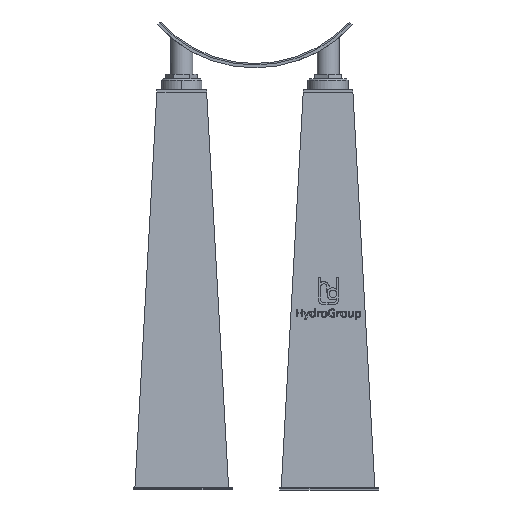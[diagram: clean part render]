
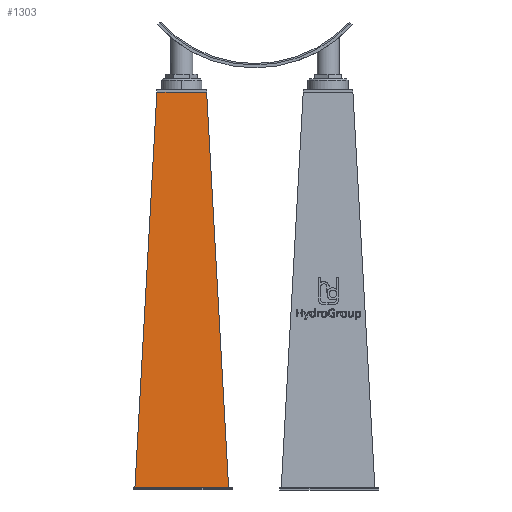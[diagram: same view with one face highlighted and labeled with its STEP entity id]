
A CAD part, front view. The second image highlights one B-rep face of the part: STEP entity #1303.
In plain terms, the highlighted planar face has unit normal (0, -0.999, 0.055).
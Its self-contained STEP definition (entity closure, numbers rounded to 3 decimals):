
#1303=ADVANCED_FACE('',(#2605),#2606,.F.);
#2605=FACE_OUTER_BOUND('',#3983,.T.);
#2606=PLANE('',#3984);
#3983=EDGE_LOOP('',(#7967,#7968,#7969,#7970));
#3984=AXIS2_PLACEMENT_3D('',#7971,#7972,#7973);
#7967=ORIENTED_EDGE('',*,*,#9494,.F.);
#7968=ORIENTED_EDGE('',*,*,#9528,.F.);
#7969=ORIENTED_EDGE('',*,*,#9522,.F.);
#7970=ORIENTED_EDGE('',*,*,#9248,.T.);
#7971=CARTESIAN_POINT('',(233.375,356.7,448.421));
#7972=DIRECTION('',(0.,0.998,-0.055));
#7973=DIRECTION('',(1.0,0.,0.));
#9248=EDGE_CURVE('',#11222,#11219,#11223,.F.);
#9494=EDGE_CURVE('',#11546,#11219,#11548,.F.);
#9522=EDGE_CURVE('',#11222,#11581,#11586,.T.);
#9528=EDGE_CURVE('',#11581,#11546,#11592,.T.);
#11219=VERTEX_POINT('',#14908);
#11222=VERTEX_POINT('',#14912);
#11223=LINE('',#14913,#14914);
#11546=VERTEX_POINT('',#15499);
#11548=LINE('',#15502,#15503);
#11581=VERTEX_POINT('',#15551);
#11586=LINE('',#15559,#15560);
#11592=LINE('',#15567,#15568);
#14908=CARTESIAN_POINT('',(40.37,296.691,-633.745));
#14912=CARTESIAN_POINT('',(100.37,356.691,448.255));
#14913=CARTESIAN_POINT('',(100.587,356.908,452.169));
#14914=VECTOR('',#16741,1.);
#15499=CARTESIAN_POINT('',(296.38,296.691,-633.745));
#15502=CARTESIAN_POINT('',(200.875,296.691,-633.745));
#15503=VECTOR('',#16917,1.0);
#15551=CARTESIAN_POINT('',(236.38,356.691,448.255));
#15559=CARTESIAN_POINT('',(200.875,356.691,448.255));
#15560=VECTOR('',#16936,1.0);
#15567=CARTESIAN_POINT('',(236.163,356.908,452.169));
#15568=VECTOR('',#16938,1.);
#16741=DIRECTION('',(0.055,0.055,0.997));
#16917=DIRECTION('',(1.0,0.,0.));
#16936=DIRECTION('',(1.0,0.,0.));
#16938=DIRECTION('',(0.055,-0.055,-0.997));
